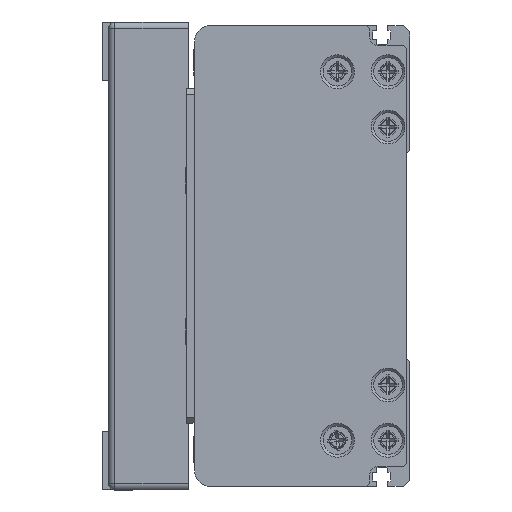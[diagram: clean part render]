
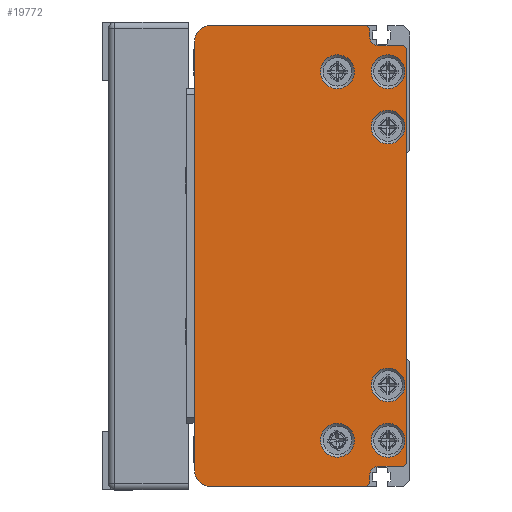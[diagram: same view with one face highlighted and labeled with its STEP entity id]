
A CAD part, left-side view. The second image highlights one B-rep face of the part: STEP entity #19772.
In plain terms, the highlighted planar face has unit normal (-1, 0, 0) as drawn and (0, 0, -1) by its records, which use the part's own axes.
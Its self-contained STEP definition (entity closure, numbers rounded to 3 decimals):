
#934=LINE('',#28562,#2599);
#935=LINE('',#28566,#2600);
#936=LINE('',#28568,#2601);
#937=LINE('',#28570,#2602);
#938=LINE('',#28574,#2603);
#939=LINE('',#28576,#2604);
#940=LINE('',#28578,#2605);
#941=LINE('',#28580,#2606);
#942=LINE('',#28582,#2607);
#943=LINE('',#28586,#2608);
#944=LINE('',#28588,#2609);
#945=LINE('',#28590,#2610);
#2599=VECTOR('',#23187,140.);
#2600=VECTOR('',#23190,51.);
#2601=VECTOR('',#23191,1.414);
#2602=VECTOR('',#23192,2.5);
#2603=VECTOR('',#23195,8.);
#2604=VECTOR('',#23196,1.414);
#2605=VECTOR('',#23197,135.);
#2606=VECTOR('',#23198,1.414);
#2607=VECTOR('',#23199,8.);
#2608=VECTOR('',#23202,2.5);
#2609=VECTOR('',#23203,1.414);
#2610=VECTOR('',#23204,51.);
#4217=PLANE('',#21122);
#4842=FACE_BOUND('',#6656,.T.);
#4843=FACE_BOUND('',#6657,.T.);
#4844=FACE_BOUND('',#6658,.T.);
#4845=FACE_BOUND('',#6659,.T.);
#4846=FACE_BOUND('',#6660,.T.);
#4847=FACE_BOUND('',#6661,.T.);
#5385=FACE_OUTER_BOUND('',#6655,.T.);
#6655=EDGE_LOOP('',(#13875,#13876,#13877,#13878,#13879,#13880,#13881,#13882,
#13883,#13884,#13885,#13886,#13887,#13888,#13889,#13890));
#6656=EDGE_LOOP('',(#13891));
#6657=EDGE_LOOP('',(#13892));
#6658=EDGE_LOOP('',(#13893));
#6659=EDGE_LOOP('',(#13894));
#6660=EDGE_LOOP('',(#13895));
#6661=EDGE_LOOP('',(#13896));
#8155=CIRCLE('',#21123,5.);
#8156=CIRCLE('',#21124,3.);
#8157=CIRCLE('',#21125,3.);
#8158=CIRCLE('',#21126,5.);
#8159=CIRCLE('',#21127,5.5);
#8160=CIRCLE('',#21128,5.5);
#8161=CIRCLE('',#21129,5.5);
#8162=CIRCLE('',#21130,5.5);
#8163=CIRCLE('',#21131,5.5);
#8164=CIRCLE('',#21132,5.5);
#8839=VERTEX_POINT('',#28560);
#8840=VERTEX_POINT('',#28561);
#8841=VERTEX_POINT('',#28563);
#8842=VERTEX_POINT('',#28565);
#8843=VERTEX_POINT('',#28567);
#8844=VERTEX_POINT('',#28569);
#8845=VERTEX_POINT('',#28571);
#8846=VERTEX_POINT('',#28573);
#8847=VERTEX_POINT('',#28575);
#8848=VERTEX_POINT('',#28577);
#8849=VERTEX_POINT('',#28579);
#8850=VERTEX_POINT('',#28581);
#8851=VERTEX_POINT('',#28583);
#8852=VERTEX_POINT('',#28585);
#8853=VERTEX_POINT('',#28587);
#8854=VERTEX_POINT('',#28589);
#8855=VERTEX_POINT('',#28592);
#8856=VERTEX_POINT('',#28594);
#8857=VERTEX_POINT('',#28596);
#8858=VERTEX_POINT('',#28598);
#8859=VERTEX_POINT('',#28600);
#8860=VERTEX_POINT('',#28602);
#10867=EDGE_CURVE('',#8839,#8840,#934,.T.);
#10868=EDGE_CURVE('',#8840,#8841,#8155,.T.);
#10869=EDGE_CURVE('',#8841,#8842,#935,.T.);
#10870=EDGE_CURVE('',#8842,#8843,#936,.T.);
#10871=EDGE_CURVE('',#8843,#8844,#937,.T.);
#10872=EDGE_CURVE('',#8844,#8845,#8156,.T.);
#10873=EDGE_CURVE('',#8845,#8846,#938,.T.);
#10874=EDGE_CURVE('',#8846,#8847,#939,.T.);
#10875=EDGE_CURVE('',#8847,#8848,#940,.T.);
#10876=EDGE_CURVE('',#8848,#8849,#941,.T.);
#10877=EDGE_CURVE('',#8849,#8850,#942,.T.);
#10878=EDGE_CURVE('',#8850,#8851,#8157,.T.);
#10879=EDGE_CURVE('',#8851,#8852,#943,.T.);
#10880=EDGE_CURVE('',#8852,#8853,#944,.T.);
#10881=EDGE_CURVE('',#8853,#8854,#945,.T.);
#10882=EDGE_CURVE('',#8854,#8839,#8158,.T.);
#10883=EDGE_CURVE('',#8855,#8855,#8159,.T.);
#10884=EDGE_CURVE('',#8856,#8856,#8160,.T.);
#10885=EDGE_CURVE('',#8857,#8857,#8161,.T.);
#10886=EDGE_CURVE('',#8858,#8858,#8162,.T.);
#10887=EDGE_CURVE('',#8859,#8859,#8163,.T.);
#10888=EDGE_CURVE('',#8860,#8860,#8164,.T.);
#13875=ORIENTED_EDGE('',*,*,#10867,.T.);
#13876=ORIENTED_EDGE('',*,*,#10868,.T.);
#13877=ORIENTED_EDGE('',*,*,#10869,.T.);
#13878=ORIENTED_EDGE('',*,*,#10870,.T.);
#13879=ORIENTED_EDGE('',*,*,#10871,.T.);
#13880=ORIENTED_EDGE('',*,*,#10872,.T.);
#13881=ORIENTED_EDGE('',*,*,#10873,.T.);
#13882=ORIENTED_EDGE('',*,*,#10874,.T.);
#13883=ORIENTED_EDGE('',*,*,#10875,.T.);
#13884=ORIENTED_EDGE('',*,*,#10876,.T.);
#13885=ORIENTED_EDGE('',*,*,#10877,.T.);
#13886=ORIENTED_EDGE('',*,*,#10878,.T.);
#13887=ORIENTED_EDGE('',*,*,#10879,.T.);
#13888=ORIENTED_EDGE('',*,*,#10880,.T.);
#13889=ORIENTED_EDGE('',*,*,#10881,.T.);
#13890=ORIENTED_EDGE('',*,*,#10882,.T.);
#13891=ORIENTED_EDGE('',*,*,#10883,.T.);
#13892=ORIENTED_EDGE('',*,*,#10884,.T.);
#13893=ORIENTED_EDGE('',*,*,#10885,.T.);
#13894=ORIENTED_EDGE('',*,*,#10886,.T.);
#13895=ORIENTED_EDGE('',*,*,#10887,.T.);
#13896=ORIENTED_EDGE('',*,*,#10888,.T.);
#19772=ADVANCED_FACE('',(#5385,#4842,#4843,#4844,#4845,#4846,#4847),#4217,
 .F.);
#21122=AXIS2_PLACEMENT_3D('',#28559,#23185,#23186);
#21123=AXIS2_PLACEMENT_3D('',#28564,#23188,#23189);
#21124=AXIS2_PLACEMENT_3D('',#28572,#23193,#23194);
#21125=AXIS2_PLACEMENT_3D('',#28584,#23200,#23201);
#21126=AXIS2_PLACEMENT_3D('',#28591,#23205,#23206);
#21127=AXIS2_PLACEMENT_3D('',#28593,#23207,#23208);
#21128=AXIS2_PLACEMENT_3D('',#28595,#23209,#23210);
#21129=AXIS2_PLACEMENT_3D('',#28597,#23211,#23212);
#21130=AXIS2_PLACEMENT_3D('',#28599,#23213,#23214);
#21131=AXIS2_PLACEMENT_3D('',#28601,#23215,#23216);
#21132=AXIS2_PLACEMENT_3D('',#28603,#23217,#23218);
#23185=DIRECTION('center_axis',(0.,0.,
1.));
#23186=DIRECTION('ref_axis',(1.,0.,0.));
#23187=DIRECTION('',(1.,0.,0.));
#23188=DIRECTION('center_axis',(0.,0.,
-1.));
#23189=DIRECTION('ref_axis',(-1.,0.,0.));
#23190=DIRECTION('',(0.,-1.,0.));
#23191=DIRECTION('',(-0.707,-0.707,0.));
#23192=DIRECTION('',(-1.,0.,0.));
#23193=DIRECTION('center_axis',(0.,0.,
1.));
#23194=DIRECTION('ref_axis',(0.,1.,0.));
#23195=DIRECTION('',(0.,-1.,0.));
#23196=DIRECTION('',(-0.707,-0.707,0.));
#23197=DIRECTION('',(-1.,0.,0.));
#23198=DIRECTION('',(-0.707,0.707,0.));
#23199=DIRECTION('',(0.,1.,0.));
#23200=DIRECTION('center_axis',(0.,0.,
1.));
#23201=DIRECTION('ref_axis',(1.,0.,0.));
#23202=DIRECTION('',(-1.,0.,0.));
#23203=DIRECTION('',(-0.707,0.707,0.));
#23204=DIRECTION('',(0.,1.,0.));
#23205=DIRECTION('center_axis',(0.,0.,
-1.));
#23206=DIRECTION('ref_axis',(0.,-1.,0.));
#23207=DIRECTION('center_axis',(0.,0.,
1.));
#23208=DIRECTION('ref_axis',(-1.,0.,0.));
#23209=DIRECTION('center_axis',(0.,0.,
1.));
#23210=DIRECTION('ref_axis',(-1.,0.,0.));
#23211=DIRECTION('center_axis',(0.,0.,
1.));
#23212=DIRECTION('ref_axis',(-1.,0.,0.));
#23213=DIRECTION('center_axis',(0.,0.,
1.));
#23214=DIRECTION('ref_axis',(-1.,0.,0.));
#23215=DIRECTION('center_axis',(0.,0.,
1.));
#23216=DIRECTION('ref_axis',(-1.,0.,0.));
#23217=DIRECTION('center_axis',(0.,0.,
1.));
#23218=DIRECTION('ref_axis',(-1.,0.,0.));
#28559=CARTESIAN_POINT('Origin',(0.25,38.047,-869.));
#28560=CARTESIAN_POINT('',(-69.75,72.25,-869.));
#28561=CARTESIAN_POINT('',(70.25,72.25,-869.));
#28562=CARTESIAN_POINT('',(-69.75,72.25,-869.));
#28563=CARTESIAN_POINT('',(75.25,67.25,-869.));
#28564=CARTESIAN_POINT('Origin',(70.25,67.25,-869.));
#28565=CARTESIAN_POINT('',(75.25,16.25,-869.));
#28566=CARTESIAN_POINT('',(75.25,67.25,-869.));
#28567=CARTESIAN_POINT('',(74.25,15.25,-869.));
#28568=CARTESIAN_POINT('',(75.25,16.25,-869.));
#28569=CARTESIAN_POINT('',(71.75,15.25,-869.));
#28570=CARTESIAN_POINT('',(74.25,15.25,-869.));
#28571=CARTESIAN_POINT('',(68.75,12.25,-869.));
#28572=CARTESIAN_POINT('Origin',(71.75,12.25,-869.));
#28573=CARTESIAN_POINT('',(68.75,4.25,-869.));
#28574=CARTESIAN_POINT('',(68.75,12.25,-869.));
#28575=CARTESIAN_POINT('',(67.75,3.25,-869.));
#28576=CARTESIAN_POINT('',(68.75,4.25,-869.));
#28577=CARTESIAN_POINT('',(-67.25,3.25,-869.));
#28578=CARTESIAN_POINT('',(67.75,3.25,-869.));
#28579=CARTESIAN_POINT('',(-68.25,4.25,-869.));
#28580=CARTESIAN_POINT('',(-67.25,3.25,-869.));
#28581=CARTESIAN_POINT('',(-68.25,12.25,-869.));
#28582=CARTESIAN_POINT('',(-68.25,4.25,-869.));
#28583=CARTESIAN_POINT('',(-71.25,15.25,-869.));
#28584=CARTESIAN_POINT('Origin',(-71.25,12.25,-869.));
#28585=CARTESIAN_POINT('',(-73.75,15.25,-869.));
#28586=CARTESIAN_POINT('',(-71.25,15.25,-869.));
#28587=CARTESIAN_POINT('',(-74.75,16.25,-869.));
#28588=CARTESIAN_POINT('',(-73.75,15.25,-869.));
#28589=CARTESIAN_POINT('',(-74.75,67.25,-869.));
#28590=CARTESIAN_POINT('',(-74.75,16.25,-869.));
#28591=CARTESIAN_POINT('Origin',(-69.75,67.25,-869.));
#28592=CARTESIAN_POINT('',(-47.25,9.25,-869.));
#28593=CARTESIAN_POINT('Origin',(-41.75,9.25,-869.));
#28594=CARTESIAN_POINT('',(36.75,9.25,-869.));
#28595=CARTESIAN_POINT('Origin',(42.25,9.25,-869.));
#28596=CARTESIAN_POINT('',(-65.25,25.75,-869.));
#28597=CARTESIAN_POINT('Origin',(-59.75,25.75,-869.));
#28598=CARTESIAN_POINT('',(54.75,25.75,-869.));
#28599=CARTESIAN_POINT('Origin',(60.25,25.75,-869.));
#28600=CARTESIAN_POINT('',(-65.25,9.25,-869.));
#28601=CARTESIAN_POINT('Origin',(-59.75,9.25,-869.));
#28602=CARTESIAN_POINT('',(54.75,9.25,-869.));
#28603=CARTESIAN_POINT('Origin',(60.25,9.25,-869.));
